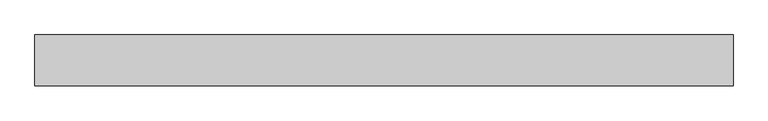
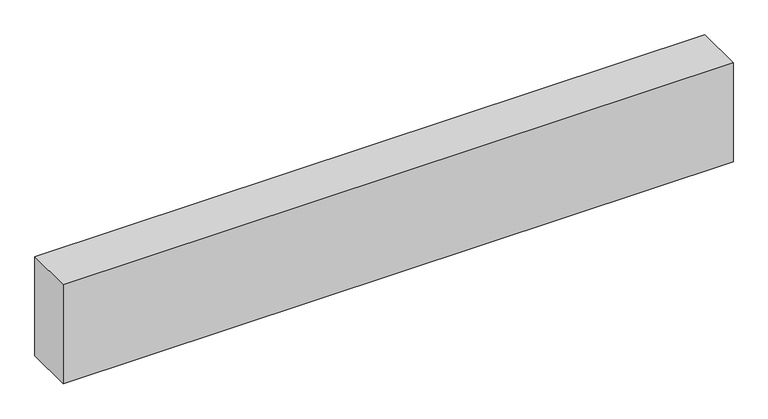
"""IFC4 building model written with IfcOpenShell, lengths in millimetres: proxy geometry."""

from ifc_helpers import new_model, si_unit, frame, origin, place, context, project, spatial, polyline, outline, extrude, source, transform, mapped, element, save


def structural_framing_3b39ab38(model_context):
    return source(origin(), model_context, "Body", "SweptSolid", [
        extrude(outline(polyline([(-959.8, -70.0), (-959.8, 70.0), (959.8, 70.0), (959.8, -70.0), (-959.8, -70.0)])), frame((0.0, 0.0, -300.0), z_axis=(0.0, 0.0, 1.0), x_axis=(1.0, 0.0, 0.0)), (0.0, 0.0, 1.0), 300.0),
    ])


if __name__ == "__main__":
    model = new_model("IFC4")
    model_context = context("Model", 3, world=origin())
    ifc_project = project(units=[si_unit("LENGTHUNIT", "METRE", prefix="MILLI")], contexts=[model_context])
    site = spatial("IfcSite", under=ifc_project)
    building = spatial("IfcBuilding", under=site)
    placement = place(None, origin())
    structural_framing_shape = structural_framing_3b39ab38(model_context)
    element("IfcBuildingElementProxy", 1, Name="Structural Framing", at=placement, inside=building, context=model_context, shape_type="MappedRepresentation", body=[
        mapped(structural_framing_shape, transform((0.0, 0.0, 0.0), x_axis=(1.0, 0.0, 0.0), y_axis=(0.0, 1.0, 0.0), z_axis=(0.0, 0.0, 1.0))),
    ])
    save(model, "model.ifc")
